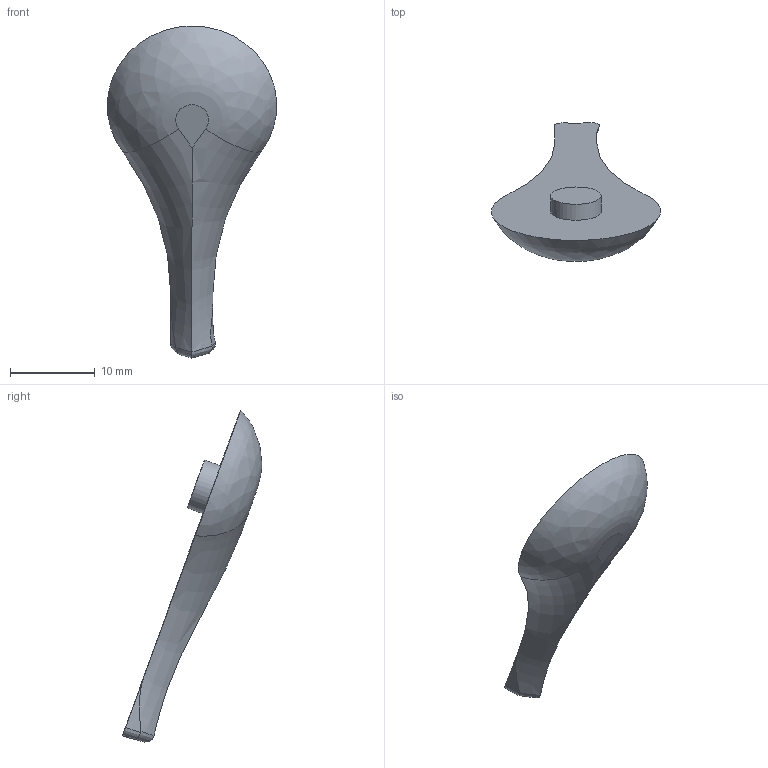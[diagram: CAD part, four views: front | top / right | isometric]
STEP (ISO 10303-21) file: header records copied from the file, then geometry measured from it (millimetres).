
FILE_DESCRIPTION(/* description */ (''),/* implementation_level */ '2;1');
FILE_NAME(/* name */ 'Engine_pylon_19dg_cover.step',/* time_stamp */ '2026-08-05T11:45:50+03:00',/* author */ (''),/* organization */ (''),/* preprocessor_version */ 'ST-DEVELOPER v20.1',/* originating_system */ 'Autodesk Translation Framework v15.8.0.0',/* authorisation */ '');
FILE_SCHEMA (('AUTOMOTIVE_DESIGN { 1 0 10303 214 3 1 1 }'));
Length unit declared in the file: millimetre
Products named in the file (2): Engine_pylon; Engine_pylon_19dg_cover
Assembly tree (1 placements, depth 2):
  Engine_pylon
    Engine_pylon_19dg_cover
Bounding box: 19.97 x 16.42 x 39.15 mm (x, y, z)
Volume: 1415.9 mm3; surface area: 1121.4 mm2
Topology: 1 solids, 1 shells, 15 faces, 36 edges, 24 vertices
Faces by surface type: bspline 6, cylinder 4, plane 3, torus 2
Full cylindrical faces by diameter (mm): 6 x1
Entity records: 893 total; most frequent: CARTESIAN_POINT 537, ORIENTED_EDGE 72, DIRECTION 51, EDGE_CURVE 36, VERTEX_POINT 24, AXIS2_PLACEMENT_3D 24, B_SPLINE_CURVE_WITH_KNOTS 21, EDGE_LOOP 16
